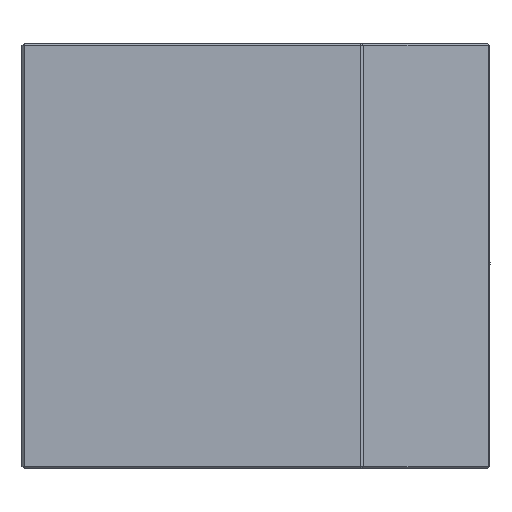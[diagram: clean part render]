
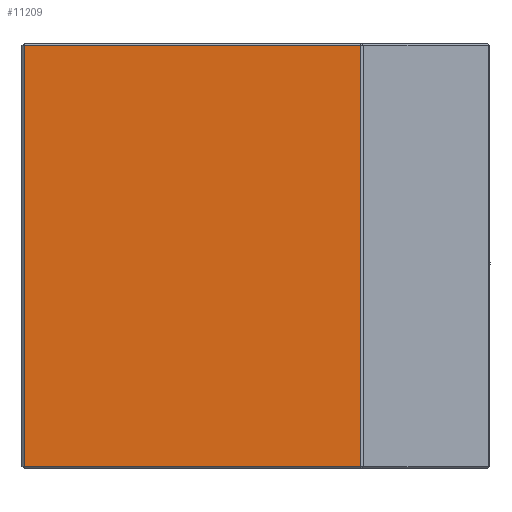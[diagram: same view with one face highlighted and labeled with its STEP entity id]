
A CAD part, left-side view. The second image highlights one B-rep face of the part: STEP entity #11209.
In plain terms, the highlighted planar face has unit normal (-1, 0, 0) as drawn and (1, 0, 0) by its records, which use the part's own axes.
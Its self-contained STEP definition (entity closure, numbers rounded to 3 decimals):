
#634 = EDGE_CURVE ( 'NONE', #41427, #22498, #10282, .T. ) ;
#896 = PLANE ( 'NONE',  #14203 ) ;
#2955 = EDGE_CURVE ( 'NONE', #16029, #41427, #38678, .T. ) ;
#4120 = VECTOR ( 'NONE', #7735, 1000. ) ;
#5066 = CARTESIAN_POINT ( 'NONE',  ( 31., 9.8, -19.8 ) ) ;
#7052 = CARTESIAN_POINT ( 'NONE',  ( 31., -22., 19.8 ) ) ;
#7735 = DIRECTION ( 'NONE',  ( 0., 0., -1. ) ) ;
#9863 = VECTOR ( 'NONE', #27285, 1000. ) ;
#10282 = LINE ( 'NONE', #25750, #12817 ) ;
#11209 = ADVANCED_FACE ( 'NONE', ( #27519 ), #896, .F. ) ;
#11830 = LINE ( 'NONE', #7052, #9863 ) ;
#12817 = VECTOR ( 'NONE', #19547, 1000. ) ;
#13053 = CARTESIAN_POINT ( 'NONE',  ( 31., 9.8, 20. ) ) ;
#14203 = AXIS2_PLACEMENT_3D ( 'NONE', #40204, #32590, #48527 ) ;
#15720 = ORIENTED_EDGE ( 'NONE', *, *, #2955, .T. ) ;
#16029 = VERTEX_POINT ( 'NONE', #20607 ) ;
#16806 = CARTESIAN_POINT ( 'NONE',  ( 31., 9.8, 19.8 ) ) ;
#17361 = ORIENTED_EDGE ( 'NONE', *, *, #45248, .T. ) ;
#19547 = DIRECTION ( 'NONE',  ( 0., 1., 0. ) ) ;
#20607 = CARTESIAN_POINT ( 'NONE',  ( 31., -21.8, 19.8 ) ) ;
#21633 = LINE ( 'NONE', #13053, #25644 ) ;
#22498 = VERTEX_POINT ( 'NONE', #5066 ) ;
#23941 = CARTESIAN_POINT ( 'NONE',  ( 31., -21.8, -19.8 ) ) ;
#25644 = VECTOR ( 'NONE', #43971, 1000. ) ;
#25750 = CARTESIAN_POINT ( 'NONE',  ( 31., 10., -19.8 ) ) ;
#27285 = DIRECTION ( 'NONE',  ( 0., -1., 0. ) ) ;
#27519 = FACE_OUTER_BOUND ( 'NONE', #44475, .T. ) ;
#30481 = ORIENTED_EDGE ( 'NONE', *, *, #35032, .T. ) ;
#32590 = DIRECTION ( 'NONE',  ( -1., 0., 0. ) ) ;
#35032 = EDGE_CURVE ( 'NONE', #22498, #42542, #21633, .T. ) ;
#38268 = ORIENTED_EDGE ( 'NONE', *, *, #634, .T. ) ;
#38678 = LINE ( 'NONE', #42480, #4120 ) ;
#40204 = CARTESIAN_POINT ( 'NONE',  ( 31., -22., 20. ) ) ;
#41427 = VERTEX_POINT ( 'NONE', #23941 ) ;
#42480 = CARTESIAN_POINT ( 'NONE',  ( 31., -21.8, 20. ) ) ;
#42542 = VERTEX_POINT ( 'NONE', #16806 ) ;
#43971 = DIRECTION ( 'NONE',  ( 0., 0., 1. ) ) ;
#44475 = EDGE_LOOP ( 'NONE', ( #15720, #38268, #30481, #17361 ) ) ;
#45248 = EDGE_CURVE ( 'NONE', #42542, #16029, #11830, .T. ) ;
#48527 = DIRECTION ( 'NONE',  ( 0., 0., 1. ) ) ;
